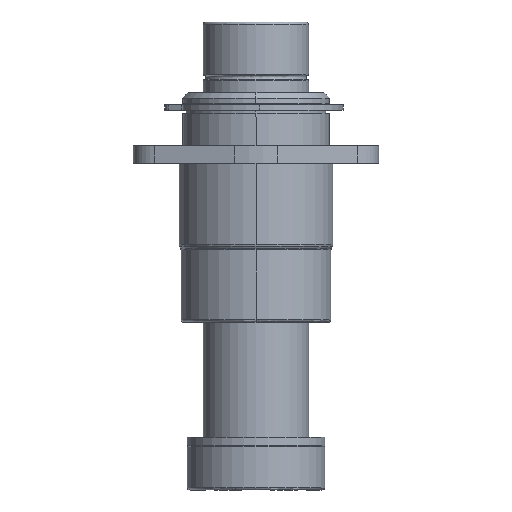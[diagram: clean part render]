
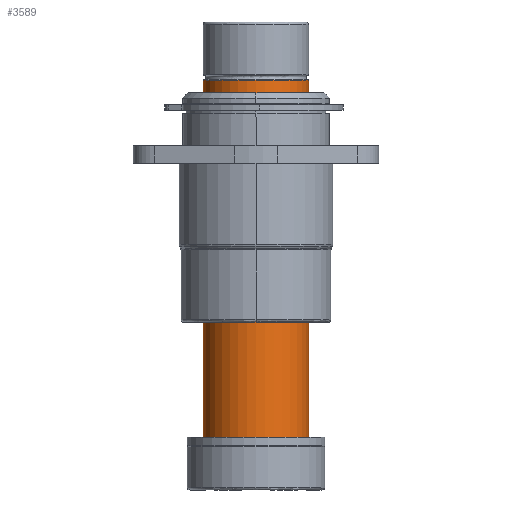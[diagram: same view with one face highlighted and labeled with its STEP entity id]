
A CAD part, front view. The second image highlights one B-rep face of the part: STEP entity #3589.
In plain terms, the highlighted cylindrical face has radius 19.028 mm (diameter 38.057 mm), a partial arc.
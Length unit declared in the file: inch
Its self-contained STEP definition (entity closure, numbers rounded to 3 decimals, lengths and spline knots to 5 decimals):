
#63 = CARTESIAN_POINT ( 'NONE',  ( 0.74915, 0., -0.82499 ) ) ;
#146 = DIRECTION ( 'NONE',  ( 0., 0., 1. ) ) ;
#201 = DIRECTION ( 'NONE',  ( 0., 0., -1. ) ) ;
#351 = ORIENTED_EDGE ( 'NONE', *, *, #813, .T. ) ;
#361 = ORIENTED_EDGE ( 'NONE', *, *, #4128, .T. ) ;
#571 = DIRECTION ( 'NONE',  ( 0., 0., 1. ) ) ;
#686 = ORIENTED_EDGE ( 'NONE', *, *, #2017, .T. ) ;
#799 = VECTOR ( 'NONE', #146, 39.37008 ) ;
#813 = EDGE_CURVE ( 'NONE', #3200, #3259, #1223, .T. ) ;
#831 = VERTEX_POINT ( 'NONE', #4614 ) ;
#849 = VECTOR ( 'NONE', #571, 39.37008 ) ;
#953 = CARTESIAN_POINT ( 'NONE',  ( 0.74915, 0., -6.455 ) ) ;
#959 = VERTEX_POINT ( 'NONE', #63 ) ;
#1032 = FACE_OUTER_BOUND ( 'NONE', #1582, .T. ) ;
#1223 = CIRCLE ( 'NONE', #2671, 0.74915 ) ;
#1282 = CARTESIAN_POINT ( 'NONE',  ( 0., 0., -6.455 ) ) ;
#1366 = CARTESIAN_POINT ( 'NONE',  ( 0., 0., -0.82499 ) ) ;
#1488 = ORIENTED_EDGE ( 'NONE', *, *, #2422, .F. ) ;
#1500 = CARTESIAN_POINT ( 'NONE',  ( 0.74915, 0., -6. ) ) ;
#1582 = EDGE_LOOP ( 'NONE', ( #1488, #351, #686, #361 ) ) ;
#1833 = CARTESIAN_POINT ( 'NONE',  ( -0.74915, 0., -6. ) ) ;
#2017 = EDGE_CURVE ( 'NONE', #3259, #959, #2633, .T. ) ;
#2075 = CIRCLE ( 'NONE', #3879, 0.74915 ) ;
#2142 = DIRECTION ( 'NONE',  ( 1., 0., 0. ) ) ;
#2254 = AXIS2_PLACEMENT_3D ( 'NONE', #1282, #3138, #2708 ) ;
#2313 = CYLINDRICAL_SURFACE ( 'NONE', #2254, 0.74915 ) ;
#2422 = EDGE_CURVE ( 'NONE', #3200, #831, #3507, .T. ) ;
#2633 = LINE ( 'NONE', #953, #849 ) ;
#2671 = AXIS2_PLACEMENT_3D ( 'NONE', #4586, #2698, #3092 ) ;
#2698 = DIRECTION ( 'NONE',  ( 0., 0., 1. ) ) ;
#2708 = DIRECTION ( 'NONE',  ( 1., 0., 0. ) ) ;
#3092 = DIRECTION ( 'NONE',  ( 1., 0., 0. ) ) ;
#3138 = DIRECTION ( 'NONE',  ( 0., 0., 1. ) ) ;
#3200 = VERTEX_POINT ( 'NONE', #1833 ) ;
#3259 = VERTEX_POINT ( 'NONE', #1500 ) ;
#3507 = LINE ( 'NONE', #4325, #799 ) ;
#3589 = ADVANCED_FACE ( 'NONE', ( #1032 ), #2313, .T. ) ;
#3879 = AXIS2_PLACEMENT_3D ( 'NONE', #1366, #201, #2142 ) ;
#4128 = EDGE_CURVE ( 'NONE', #959, #831, #2075, .T. ) ;
#4325 = CARTESIAN_POINT ( 'NONE',  ( -0.74915, 0., -6.455 ) ) ;
#4586 = CARTESIAN_POINT ( 'NONE',  ( 0., 0., -6. ) ) ;
#4614 = CARTESIAN_POINT ( 'NONE',  ( -0.74915, 0., -0.82499 ) ) ;
